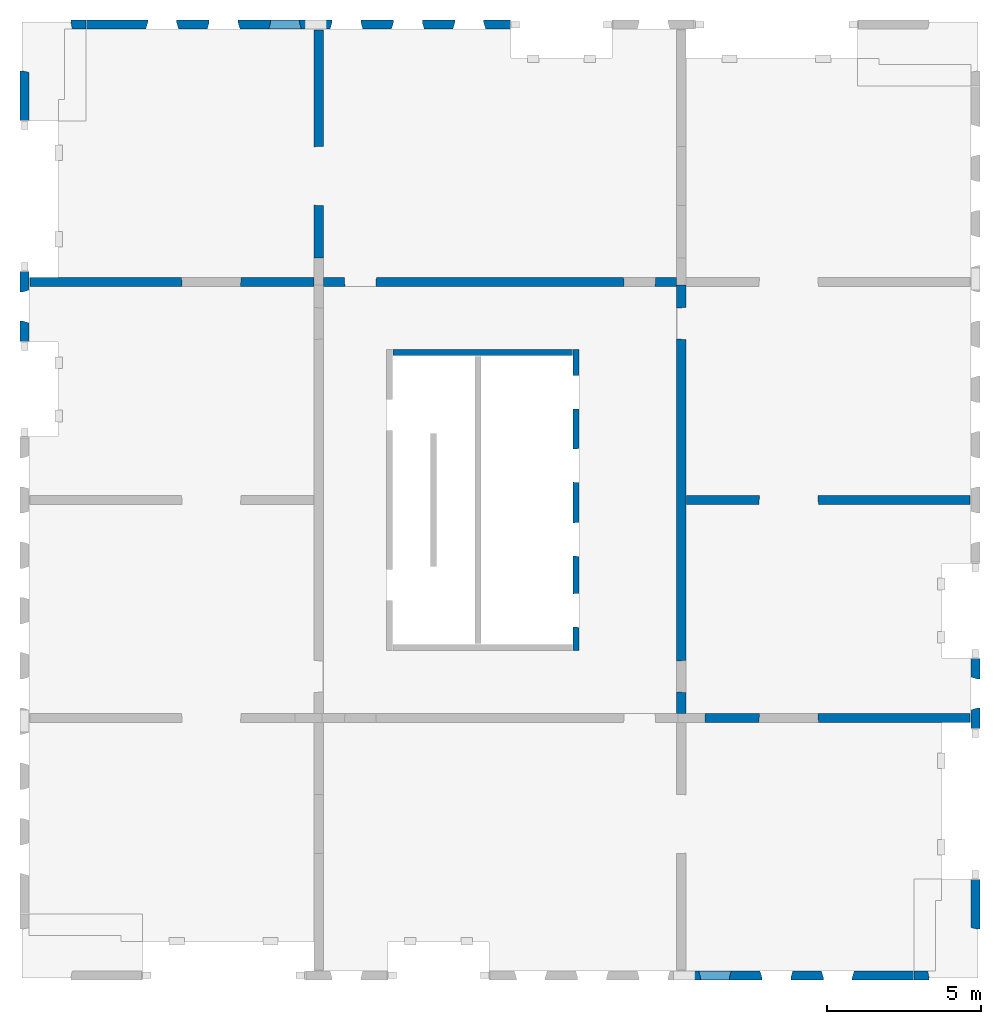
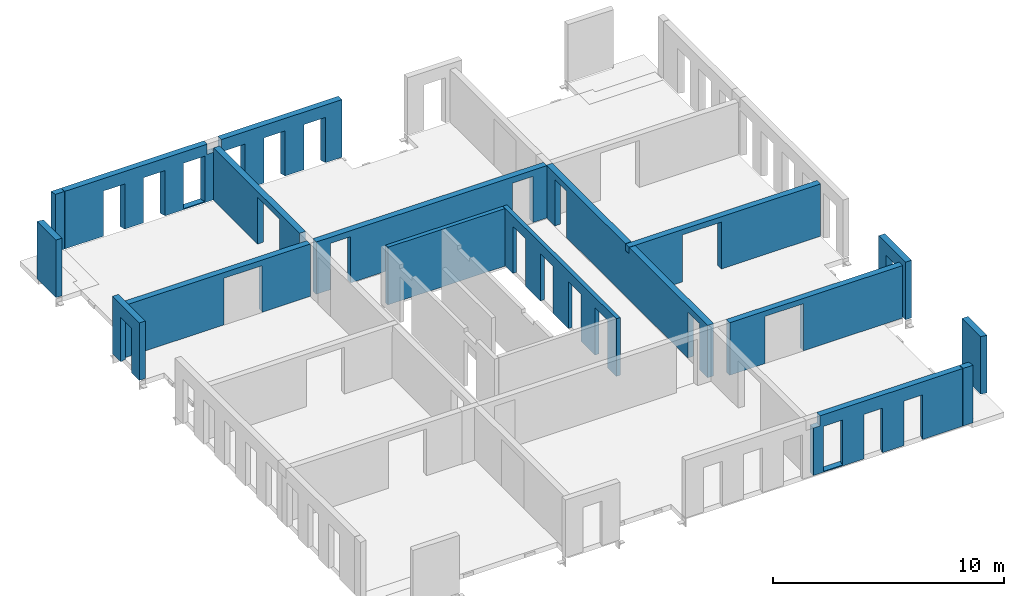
# One storey, part 3 of 5: 17 walls, 32 openings.
"""IFC2X3 building model written with IfcOpenShell, lengths in millimetres."""

import ifcopenshell
import ifcopenshell.guid

model = None  # the IFC model being written
_history = None  # IfcOwnerHistory: only IFC2X3 demands one
_inside = {}  # id of a spatial element -> (the spatial element, [elements in it])
_under = {}  # id of a project, library or spatial element -> (it, [spatial elements below it])
_declared = {}  # id of a project -> (the project, [libraries it declares])
_typed = {}  # id of a type object -> (the type object, [elements of that type])
_made_of = {}  # id of a material, layer set ... -> (it, [elements and type objects made of it])


def new_model(schema):
    """Start an empty IFC model of exactly this schema.

    Asked for "IFC4X3", IfcOpenShell would pick the latest addendum, in which some entities
    have other attributes; the version numbers below select the first issue.
    IFC2X3 requires an IfcOwnerHistory on every rooted entity: one is made here for all.
    """
    global model, _history
    if schema == "IFC4X3":
        model = ifcopenshell.file(schema_version=(4, 3, 0, 0))
    else:
        model = ifcopenshell.file(schema=schema)
    _inside.clear()
    _under.clear()
    _declared.clear()
    _typed.clear()
    _made_of.clear()
    _history = None
    if model.schema == "IFC2X3":
        org = make("IfcOrganization", Name="unknown")
        user = make(
            "IfcPersonAndOrganization",
            ThePerson=make("IfcPerson", FamilyName="unknown"),
            TheOrganization=org,
        )
        app = make(
            "IfcApplication",
            ApplicationDeveloper=org,
            Version="unknown",
            ApplicationFullName="unknown",
            ApplicationIdentifier="unknown",
        )
        _history = make(
            "IfcOwnerHistory",
            OwningUser=user,
            OwningApplication=app,
            ChangeAction="ADDED",
            CreationDate=0,
        )
    return model


def make(cls, **values):
    """One entity of the class cls with the attributes given. An attribute that is None is left unset."""
    return model.create_entity(
        cls, **{name: value for name, value in values.items() if value is not None}
    )


def entity(cls, *values):
    """Any entity or typed value of the class cls, its attributes in the order of the schema. None: left unset."""
    e = model.create_entity(cls)
    for i, value in enumerate(values):
        if value is not None:
            e[i] = value
    return e


def rooted(cls, **values):
    """An entity with a GlobalId (a new one), such as an element, a storey or a relation."""
    return make(cls, GlobalId=ifcopenshell.guid.new(), OwnerHistory=_history, **values)


def si_unit(unit_type, name, prefix=None):
    """IfcSIUnit, for example si_unit("LENGTHUNIT", "METRE", prefix="MILLI")."""
    return make("IfcSIUnit", UnitType=unit_type, Prefix=prefix, Name=name)


def converted_unit(unit_type, name, factor, base, dimensions=None, offset=None):
    """IfcConversionBasedUnit, such as the inch: factor (a typed value) times the base unit."""
    return make(
        "IfcConversionBasedUnit"
        if offset is None
        else "IfcConversionBasedUnitWithOffset",
        ConversionOffset=offset,
        Dimensions=None
        if dimensions is None
        else entity("IfcDimensionalExponents", *dimensions),
        UnitType=unit_type,
        Name=name,
        ConversionFactor=make(
            "IfcMeasureWithUnit", ValueComponent=factor, UnitComponent=base
        ),
    )


def derived_unit(unit_type, elements):
    """IfcDerivedUnit: a product of units, each with its exponent."""
    return make(
        "IfcDerivedUnit",
        Elements=[
            make("IfcDerivedUnitElement", Unit=unit, Exponent=power)
            for unit, power in elements
        ],
        UnitType=unit_type,
    )


def assignment(units):
    """IfcUnitAssignment: the units of a project."""
    return None if units is None else make("IfcUnitAssignment", Units=units)


def point(xyz):
    """IfcCartesianPoint."""
    return None if xyz is None else make("IfcCartesianPoint", Coordinates=xyz)


def direction(xyz):
    """IfcDirection."""
    return None if xyz is None else make("IfcDirection", DirectionRatios=xyz)


def frame(location, z_axis=None, x_axis=None):
    """IfcAxis2Placement3D, a coordinate frame: its origin and axes. An axis left out is left unset."""
    return make(
        "IfcAxis2Placement3D",
        Location=point(location),
        Axis=direction(z_axis),
        RefDirection=direction(x_axis),
    )


def frame_2d(location, x_axis=None):
    """IfcAxis2Placement2D, a coordinate frame in the plane: its origin and x axis."""
    return make(
        "IfcAxis2Placement2D", Location=point(location), RefDirection=direction(x_axis)
    )


def origin():
    """The frame at (0, 0, 0) with its axes left unset."""
    return frame((0.0, 0.0, 0.0))


def origin_2d_with_axis():
    """The frame at (0, 0) in the plane with the x axis (1, 0) written out."""
    return frame_2d((0.0, 0.0), x_axis=(1.0, 0.0))


def place(relative_to, where):
    """IfcLocalPlacement: puts the frame where relative to a parent placement (None: the world)."""
    return make(
        "IfcLocalPlacement", PlacementRelTo=relative_to, RelativePlacement=where
    )


def context(
    kind, dimensions, precision=None, world=None, true_north=None, identifier=None
):
    """IfcGeometricRepresentationContext, for example the 3D "Model" context."""
    return make(
        "IfcGeometricRepresentationContext",
        ContextIdentifier=identifier,
        ContextType=kind,
        CoordinateSpaceDimension=dimensions,
        Precision=precision,
        WorldCoordinateSystem=world,
        TrueNorth=true_north,
    )


def subcontext(parent, identifier, kind, view, scale=None):
    """IfcGeometricRepresentationSubContext, for example "Body" below "Model"."""
    return make(
        "IfcGeometricRepresentationSubContext",
        ContextIdentifier=identifier,
        ContextType=kind,
        ParentContext=parent,
        TargetScale=scale,
        TargetView=view,
    )


def project(units=None, contexts=None):
    """IfcProject with its units and contexts."""
    return rooted(
        "IfcProject",
        Name="project",
        RepresentationContexts=contexts,
        UnitsInContext=assignment(units),
    )


def spatial(cls, under=None, at=None, **own):
    """A site, building, storey or space (cls), placed at a placement, below another one or the project."""
    s = rooted(cls, ObjectPlacement=at, **own)
    if under is not None:
        _under.setdefault(under.id(), (under, []))[1].append(s)
    return s


def profile(cls, at=None, kind="AREA", **sizes):
    """A parametric profile (cls). Its sizes go by their IFC names, for example OverallWidth=200.0."""
    return make(cls, ProfileType=kind, Position=at, **sizes)


def rectangle(**sizes):
    """IfcRectangleProfileDef."""
    return profile("IfcRectangleProfileDef", **sizes)


def extrude(swept, where, along, depth):
    """IfcExtrudedAreaSolid: the profile swept, set in the frame where, extruded along a direction by depth."""
    return make(
        "IfcExtrudedAreaSolid",
        SweptArea=swept,
        Position=where,
        ExtrudedDirection=direction(along),
        Depth=depth,
    )


def faces_of(points, faces, orient=None, outer=None):
    """IfcFace entities. A face is a list of loops; a loop is a list of indices into points, from 0.

    orient and outer hold one flag for each loop. By default every Orientation is true, the
    first loop of a face is its IfcFaceOuterBound and the others are IfcFaceBound.
    """
    made = []
    for i, loops in enumerate(faces):
        bounds = []
        for j, loop in enumerate(loops):
            is_outer = j == 0 if outer is None else outer[i][j]
            bounds.append(
                make(
                    "IfcFaceOuterBound" if is_outer else "IfcFaceBound",
                    Bound=make("IfcPolyLoop", Polygon=[points[k] for k in loop]),
                    Orientation=True if orient is None else orient[i][j],
                )
            )
        made.append(make("IfcFace", Bounds=bounds))
    return made


def faceted_brep(points, faces, orient=None, outer=None, voids=None):
    """IfcFacetedBrep: a solid bounded by flat faces; with voids (closed shells), ...WithVoids."""
    shared = [point(p) for p in points]
    hull = make("IfcClosedShell", CfsFaces=faces_of(shared, faces, orient, outer))
    if voids is None:
        return make("IfcFacetedBrep", Outer=hull)
    return make(
        "IfcFacetedBrepWithVoids",
        Outer=hull,
        Voids=[
            make(cls, CfsFaces=faces_of(shared, fs, o, b)) for cls, fs, o, b in voids
        ],
    )


def shape(context_of_items, identifier, shape_type, items):
    """IfcShapeRepresentation: the items that make up one representation, for example the "Body"."""
    return make(
        "IfcShapeRepresentation",
        ContextOfItems=context_of_items,
        RepresentationIdentifier=identifier,
        RepresentationType=shape_type,
        Items=items,
    )


def material(Name=None, Category=None):
    """IfcMaterial."""
    return make("IfcMaterial", Name=Name, Category=Category)


def layer(
    of_material, thickness, ventilated=None, Name=None, Category=None, Priority=None
):
    """IfcMaterialLayer: one layer of a wall or slab, of a material (None: an air gap)."""
    return make(
        "IfcMaterialLayer",
        Material=of_material,
        LayerThickness=thickness,
        IsVentilated=ventilated,
        Name=Name,
        Category=Category,
        Priority=Priority,
    )


def layer_set(layers, Name=None):
    """IfcMaterialLayerSet."""
    return make("IfcMaterialLayerSet", MaterialLayers=layers, LayerSetName=Name)


def layer_usage(for_layer_set, set_direction, sense, offset, extent=None):
    """IfcMaterialLayerSetUsage: how a layer set lies in its element."""
    return make(
        "IfcMaterialLayerSetUsage",
        ForLayerSet=for_layer_set,
        LayerSetDirection=set_direction,
        DirectionSense=sense,
        OffsetFromReferenceLine=offset,
        ReferenceExtent=extent,
    )


def made_of(thing, what):
    """Note that an element or type object is made of a material, layer set ...; save() writes the relation."""
    if what is not None:
        _made_of.setdefault(what.id(), (what, []))[1].append(thing)
    return thing


def type_object(cls, material=None, **own):
    """A type object (cls), such as IfcWallType, which elements share."""
    return made_of(rooted(cls, **own), material)


def element(
    cls,
    number,
    at=None,
    inside=None,
    cuts=None,
    type_object=None,
    material=None,
    context=None,
    identifier="Body",
    shape_type=None,
    held_by="IfcProductDefinitionShape",
    body=None,
    shapes=None,
    **own,
):
    """One element of the class cls, such as IfcWall. Its Tag is "e" and its number.

    at: its placement. inside: the storey or other place that contains it. cuts: it is an
    opening in that element (IfcRelVoidsElement). A single representation is given by context,
    identifier, shape_type and body (its items); several are given by shapes. held_by: the class
    of the entity that holds the representations. save() writes the other relations.
    """
    e = rooted(cls, Tag="e%d" % number, ObjectPlacement=at, **own)
    if body is not None:
        shapes = [shape(context, identifier, shape_type, body)]
    if shapes is not None:
        e.Representation = make(held_by, Representations=shapes)
    if inside is not None:
        _inside.setdefault(inside.id(), (inside, []))[1].append(e)
    if cuts is not None:
        rooted(
            "IfcRelVoidsElement", RelatingBuildingElement=cuts, RelatedOpeningElement=e
        )
    if type_object is not None:
        _typed.setdefault(type_object.id(), (type_object, []))[1].append(e)
    return made_of(e, material)


def aggregate(whole, parts):
    """IfcRelAggregates: a whole, such as a stair, and the parts it consists of."""
    return rooted("IfcRelAggregates", RelatingObject=whole, RelatedObjects=parts)


def save(model, path):
    """Write the relations noted so far, then the file.

    IfcRelAggregates (storeys below a building ...), IfcRelContainedInSpatialStructure (elements
    in a storey), IfcRelDefinesByType, IfcRelAssociatesMaterial and IfcRelDeclares: one each for
    every whole, place, type object, material and project.
    """
    for whole, parts in _under.values():
        aggregate(whole, parts)
    for where, things in _inside.values():
        rooted(
            "IfcRelContainedInSpatialStructure",
            RelatedElements=things,
            RelatingStructure=where,
        )
    for kind, things in _typed.values():
        rooted("IfcRelDefinesByType", RelatedObjects=things, RelatingType=kind)
    for what, things in _made_of.values():
        rooted("IfcRelAssociatesMaterial", RelatedObjects=things, RelatingMaterial=what)
    for by, libraries in _declared.values():
        rooted("IfcRelDeclares", RelatingContext=by, RelatedDefinitions=libraries)
    model.write(path)


model = new_model("IFC2X3")

# Units and contexts
model_context = context("Model", 3, precision=0.01, world=origin(), true_north=direction((6.12303176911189e-17, 1.0)))
body_context = subcontext(model_context, "Body", "Model", "MODEL_VIEW")
ifc_project = project(units=[si_unit("LENGTHUNIT", "METRE", prefix="MILLI"), si_unit("AREAUNIT", "SQUARE_METRE"), si_unit("VOLUMEUNIT", "CUBIC_METRE"), converted_unit("PLANEANGLEUNIT", "DEGREE", entity("IfcRatioMeasure", 0.0174532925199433), si_unit("PLANEANGLEUNIT", "RADIAN"), dimensions=[0, 0, 0, 0, 0, 0, 0]), si_unit("MASSUNIT", "GRAM", prefix="KILO"), derived_unit("MASSDENSITYUNIT", [(si_unit("MASSUNIT", "GRAM", prefix="KILO"), 1), (si_unit("LENGTHUNIT", "METRE"), -3)]), si_unit("TIMEUNIT", "SECOND"), si_unit("FREQUENCYUNIT", "HERTZ"), si_unit("THERMODYNAMICTEMPERATUREUNIT", "DEGREE_CELSIUS"), derived_unit("THERMALTRANSMITTANCEUNIT", [(si_unit("MASSUNIT", "GRAM", prefix="KILO"), 1), (si_unit("THERMODYNAMICTEMPERATUREUNIT", "KELVIN"), -1), (si_unit("TIMEUNIT", "SECOND"), -3)]), derived_unit("VOLUMETRICFLOWRATEUNIT", [(si_unit("LENGTHUNIT", "METRE"), 3), (si_unit("TIMEUNIT", "SECOND"), -1)]), si_unit("ELECTRICCURRENTUNIT", "AMPERE"), si_unit("ELECTRICVOLTAGEUNIT", "VOLT"), si_unit("POWERUNIT", "WATT"), si_unit("FORCEUNIT", "NEWTON", prefix="KILO"), si_unit("ILLUMINANCEUNIT", "LUX"), si_unit("LUMINOUSFLUXUNIT", "LUMEN"), si_unit("LUMINOUSINTENSITYUNIT", "CANDELA"), derived_unit("USERDEFINED", [(si_unit("MASSUNIT", "GRAM", prefix="KILO"), -1), (si_unit("LENGTHUNIT", "METRE"), -2), (si_unit("TIMEUNIT", "SECOND"), 3), (si_unit("LUMINOUSFLUXUNIT", "LUMEN"), 1)]), derived_unit("LINEARVELOCITYUNIT", [(si_unit("LENGTHUNIT", "METRE"), 1), (si_unit("TIMEUNIT", "SECOND"), -1)]), si_unit("PRESSUREUNIT", "PASCAL"), derived_unit("USERDEFINED", [(si_unit("LENGTHUNIT", "METRE"), -2), (si_unit("MASSUNIT", "GRAM", prefix="KILO"), 1), (si_unit("TIMEUNIT", "SECOND"), -2)])], contexts=[model_context])

# Site, building, storey
site_placement = place(None, origin())
site = spatial("IfcSite", under=ifc_project, at=site_placement, Name="Default", CompositionType="ELEMENT")
building_placement = place(site_placement, origin())
building = spatial("IfcBuilding", under=site, at=building_placement, Name="niet gebruiken", CompositionType="ELEMENT")
storey_placement = place(building_placement, frame((0.0, 0.0, 155700.0)))
storey = spatial("IfcBuildingStorey", under=building, at=storey_placement, Name="50 vijftigste verdieping", CompositionType="ELEMENT", Elevation=155700.0)

# Wall, openings
ifc_material = material(Name="NLRS_f2_beton prefab")
ifc_layer_1 = layer(ifc_material, 200.0)
ifc_layer_set_1 = layer_set([ifc_layer_1], Name="Basic Wall:NLRS_22.21_WA_beton prefab d=200_gen")
ifc_layer_usage_1 = layer_usage(ifc_layer_set_1, "AXIS2", "NEGATIVE", 100.0)
wall_type_1 = type_object("IfcWallType", Name="Basic Wall:NLRS_22.21_WA_beton prefab d=200_gen", PredefinedType="STANDARD", material=ifc_layer_set_1)
wall_1_placement = place(storey_placement, frame((144230.0, 22400.0, -50.0), z_axis=(0.0, 0.0, 1.0), x_axis=(0.0, -1.0, 0.0)))
wall_1 = element("IfcWallStandardCase", 1, at=wall_1_placement, inside=storey, type_object=wall_type_1, material=ifc_layer_usage_1, Name="Basic Wall:NLRS_22.21_WA_beton prefab d=200_gen", ObjectType="Basic Wall:NLRS_22.21_WA_beton prefab d=200_gen", context=body_context, shape_type="SweptSolid", body=[
    extrude(rectangle(XDim=9800.0, YDim=199.999999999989, at=frame_2d((4900.0, -3.69482222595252e-13), x_axis=(-1.0, 0.0))), origin(), (0.0, 0.0, 1.0), 3040.0),
])
opening_1_placement = place(wall_1_placement, frame((9047.0, -100.0, 0.0)))
element("IfcOpeningElement", 2, at=opening_1_placement, cuts=wall_1, Name="Basic Wall:NLRS_22.21_WA_beton prefab d=200_gen", ObjectType="Opening", context=body_context, shape_type="Brep", body=[
    faceted_brep([(-1104.0, 200.0, 2502.0), (-1104.0, 200.0, 0.0), (-1092.0, 0.0, 0.0), (-1092.0, 0.0, 2490.0), (0.0, 200.0, 0.0), (-12.0, 0.0, 0.0), (-12.0, 0.0, 2490.0), (0.0, 200.0, 2502.0)], [[[0, 1, 2, 3]], [[1, 4, 5, 2]], [[6, 3, 2, 5]], [[7, 4, 1, 0]], [[7, 0, 3, 6]], [[4, 7, 6, 5]]]),
])
opening_2_placement = place(wall_1_placement, frame((6737.0, -100.0, 0.0)))
element("IfcOpeningElement", 3, at=opening_2_placement, cuts=wall_1, Name="Basic Wall:NLRS_22.21_WA_beton prefab d=200_gen", ObjectType="Opening", context=body_context, shape_type="Brep", body=[
    faceted_brep([(-1104.0, 200.0, 2502.0), (-1104.0, 200.0, 0.0), (-1092.0, 0.0, 0.0), (-1092.0, 0.0, 2490.0), (0.0, 200.0, 0.0), (-12.0, 0.0, 0.0), (-12.0, 0.0, 2490.0), (0.0, 200.0, 2502.0)], [[[0, 1, 2, 3]], [[1, 4, 5, 2]], [[6, 3, 2, 5]], [[7, 4, 1, 0]], [[7, 0, 3, 6]], [[4, 7, 6, 5]]]),
])
opening_3_placement = place(wall_1_placement, frame((4332.0, -100.0, 0.0)))
element("IfcOpeningElement", 4, at=opening_3_placement, cuts=wall_1, Name="Basic Wall:NLRS_22.21_WA_beton prefab d=200_gen", ObjectType="Opening", context=body_context, shape_type="Brep", body=[
    faceted_brep([(-1104.0, 200.0, 2502.0), (-1104.0, 200.0, 0.0), (-1092.0, 0.0, 0.0), (-1092.0, 0.0, 2490.0), (0.0, 200.0, 0.0), (-12.0, 0.0, 0.0), (-12.0, 0.0, 2490.0), (0.0, 200.0, 2502.0)], [[[0, 1, 2, 3]], [[1, 4, 5, 2]], [[6, 3, 2, 5]], [[7, 4, 1, 0]], [[7, 0, 3, 6]], [[4, 7, 6, 5]]]),
])
opening_4_placement = place(wall_1_placement, frame((1942.0, -100.0, 0.0)))
element("IfcOpeningElement", 5, at=opening_4_placement, cuts=wall_1, Name="Basic Wall:NLRS_22.21_WA_beton prefab d=200_gen", ObjectType="Opening", context=body_context, shape_type="Brep", body=[
    faceted_brep([(-1104.0, 200.0, 2502.0), (-1104.0, 200.0, 0.0), (-1092.0, 0.0, 0.0), (-1092.0, 0.0, 2490.0), (0.0, 200.0, 0.0), (-12.0, 0.0, 0.0), (-12.0, 0.0, 2490.0), (0.0, 200.0, 2502.0)], [[[0, 1, 2, 3]], [[1, 4, 5, 2]], [[6, 3, 2, 5]], [[7, 4, 1, 0]], [[7, 0, 3, 6]], [[4, 7, 6, 5]]]),
])

# Wall
ifc_layer_usage_2 = layer_usage(ifc_layer_set_1, "AXIS2", "NEGATIVE", 100.0)
wall_2_placement = place(storey_placement, frame((138270.0, 22300.0, -50.0)))
element("IfcWallStandardCase", 6, at=wall_2_placement, inside=storey, type_object=wall_type_1, material=ifc_layer_usage_2, Name="Basic Wall:NLRS_22.21_WA_beton prefab d=200_gen", ObjectType="Basic Wall:NLRS_22.21_WA_beton prefab d=200_gen", context=body_context, shape_type="SweptSolid", body=[
    extrude(rectangle(XDim=5839.99999999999, YDim=199.999999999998, at=frame_2d((2919.99999999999, -7.60280727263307e-13), x_axis=(-1.0, 0.0))), origin(), (0.0, 0.0, 1.0), 3040.0),
])

# Wall, openings
ifc_layer_2 = layer(ifc_material, 300.0)
ifc_layer_set_2 = layer_set([ifc_layer_2], Name="Basic Wall:NLRS_22.21_WA_beton prefab d=300_gen")
ifc_layer_usage_3 = layer_usage(ifc_layer_set_2, "AXIS2", "NEGATIVE", 150.0)
wall_type_2 = type_object("IfcWallType", Name="Basic Wall:NLRS_22.21_WA_beton prefab d=300_gen", PredefinedType="STANDARD", material=ifc_layer_set_2)
wall_3_placement = place(storey_placement, frame((157060.0, 17500.0, -60.0), z_axis=(0.0, 0.0, 1.0), x_axis=(-1.0, 0.0, 0.0)))
wall_3 = element("IfcWallStandardCase", 7, at=wall_3_placement, inside=storey, type_object=wall_type_2, material=ifc_layer_usage_3, Name="Basic Wall:NLRS_22.21_WA_beton prefab d=300_gen", ObjectType="Basic Wall:NLRS_22.21_WA_beton prefab d=300_gen", context=body_context, shape_type="SweptSolid", body=[
    extrude(rectangle(XDim=9559.9999999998, YDim=300.000000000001, at=frame_2d((4779.9999999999, -1.84741111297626e-13), x_axis=(-1.0, 0.0))), origin(), (0.0, 0.0, 1.0), 2760.0),
])
opening_5_placement = place(wall_3_placement, frame((6878.0, 150.0, -10.0)))
element("IfcOpeningElement", 8, at=opening_5_placement, cuts=wall_3, Name="Basic Wall:NLRS_22.21_WA_beton prefab d=300_gen", ObjectType="Opening", context=body_context, shape_type="Brep", body=[
    faceted_brep([(-18.0, -300.0, 2470.0), (-1918.0, -300.0, 2470.0), (-1918.0, -300.0, 0.0), (-18.0, -300.0, 0.0), (0.0, 0.0, 2488.0), (0.0, 0.0, 0.0), (-1936.0, 0.0, 0.0), (-1936.0, 0.0, 2488.0)], [[[0, 1, 2, 3]], [[4, 5, 6, 7]], [[4, 7, 1, 0]], [[7, 6, 2, 1]], [[6, 5, 3, 2]], [[5, 4, 0, 3]]]),
])
opening_6_placement = place(wall_3_placement, origin())
element("IfcOpeningElement", 9, at=opening_6_placement, cuts=wall_3, Name="Basic Wall:NLRS_22.21_WA_beton prefab d=300_gen", ObjectType="Opening", context=body_context, shape_type="SweptSolid", body=[
    extrude(rectangle(XDim=2429.99999999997, YDim=319.999999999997, at=frame_2d((0.0, 0.0), x_axis=(0.0, 1.0))), frame((9400.0, 150.0, 1215.0), z_axis=(0.0, -1.0, 0.0), x_axis=(1.0, 0.0, 0.0)), (0.0, 0.0, 1.0), 300.0),
])

# Wall, opening
ifc_layer_usage_4 = layer_usage(ifc_layer_set_2, "AXIS2", "NEGATIVE", 150.0)
wall_4_placement = place(storey_placement, frame((135700.0, 24600.0, -60.0), z_axis=(0.0, 0.0, 1.0), x_axis=(-1.0, 0.0, 0.0)))
wall_4 = element("IfcWallStandardCase", 10, at=wall_4_placement, inside=storey, type_object=wall_type_2, material=ifc_layer_usage_4, Name="Basic Wall:NLRS_22.21_WA_beton prefab d=300_gen", ObjectType="Basic Wall:NLRS_22.21_WA_beton prefab d=300_gen", context=body_context, shape_type="SweptSolid", body=[
    extrude(rectangle(XDim=9259.99999999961, YDim=300.000000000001, at=frame_2d((4629.99999999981, -2.41584530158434e-13), x_axis=(-1.0, 0.0))), origin(), (0.0, 0.0, 1.0), 2760.0),
])
opening_7_placement = place(wall_4_placement, frame((4318.0, 150.0, -10.0)))
element("IfcOpeningElement", 11, at=opening_7_placement, cuts=wall_4, Name="Basic Wall:NLRS_22.21_WA_beton prefab d=300_gen", ObjectType="Opening", context=body_context, shape_type="Brep", body=[
    faceted_brep([(-1918.0, 0.0, 2470.0), (-18.0, 0.0, 2470.0), (-18.0, 0.0, 0.0), (-1918.0, 0.0, 0.0), (-1936.0, -300.0, 2488.0), (-1936.0, -300.0, 0.0), (0.0, -300.0, 0.0), (0.0, -300.0, 2488.0)], [[[0, 1, 2, 3]], [[4, 5, 6, 7]], [[4, 7, 1, 0]], [[7, 6, 2, 1]], [[6, 5, 3, 2]], [[5, 4, 0, 3]]]),
])

ifc_layer_usage_5 = layer_usage(ifc_layer_set_2, "AXIS2", "NEGATIVE", 150.0)
wall_5_placement = place(storey_placement, frame((148430.0, 10400.0, -70.0)))
wall_5 = element("IfcWallStandardCase", 12, at=wall_5_placement, inside=storey, type_object=wall_type_2, material=ifc_layer_usage_5, Name="Basic Wall:NLRS_22.21_WA_beton prefab d=300_gen", ObjectType="Basic Wall:NLRS_22.21_WA_beton prefab d=300_gen", context=body_context, shape_type="SweptSolid", body=[
    extrude(rectangle(XDim=8630.00000000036, YDim=300.000000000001, at=frame_2d((4315.00000000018, 0.0), x_axis=(-1.0, 0.0))), origin(), (0.0, 0.0, 1.0), 2769.99999999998),
])
opening_8_placement = place(wall_5_placement, frame((1752.0, -150.0, 0.0)))
element("IfcOpeningElement", 13, at=opening_8_placement, cuts=wall_5, Name="Basic Wall:NLRS_22.21_WA_beton prefab d=300_gen", ObjectType="Opening", context=body_context, shape_type="Brep", body=[
    faceted_brep([(18.0, 300.0, 2470.0), (1918.0, 300.0, 2470.0), (1918.0, 300.0, 0.0), (18.0, 300.0, 0.0), (0.0, 0.0, 2488.0), (0.0, 0.0, 0.0), (1936.0, 0.0, 0.0), (1936.0, 0.0, 2488.0)], [[[0, 1, 2, 3]], [[4, 5, 6, 7]], [[4, 7, 1, 0]], [[7, 6, 2, 1]], [[6, 5, 3, 2]], [[5, 4, 0, 3]]]),
])

ifc_layer_usage_6 = layer_usage(ifc_layer_set_2, "AXIS2", "NEGATIVE", 150.0)
wall_6_placement = place(storey_placement, frame((135850.0, 25380.0, -70.0), z_axis=(0.0, 0.0, 1.0), x_axis=(0.0, 1.0, 0.0)))
wall_6 = element("IfcWallStandardCase", 14, at=wall_6_placement, inside=storey, type_object=wall_type_2, material=ifc_layer_usage_6, Name="Basic Wall:NLRS_22.21_WA_beton prefab d=300_gen", ObjectType="Basic Wall:NLRS_22.21_WA_beton prefab d=300_gen", context=body_context, shape_type="SweptSolid", body=[
    extrude(rectangle(XDim=7430.00000000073, YDim=300.000000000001, at=frame_2d((3715.00000000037, -5.62749846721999e-12), x_axis=(-1.0, 0.0))), origin(), (0.0, 0.0, 1.0), 2769.99999999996),
])
opening_9_placement = place(wall_6_placement, frame((1702.0, 150.0, 0.0)))
element("IfcOpeningElement", 15, at=opening_9_placement, cuts=wall_6, Name="Basic Wall:NLRS_22.21_WA_beton prefab d=300_gen", ObjectType="Opening", context=body_context, shape_type="Brep", body=[
    faceted_brep([(1918.0, 0.0, 2470.0), (1918.0, 0.0, 0.0), (18.0, 0.0, 0.0), (18.0, 0.0, 2470.0), (1936.0, -300.0, 2488.0), (0.0, -300.0, 2488.0), (0.0, -300.0, 0.0), (1936.0, -300.0, 0.0)], [[[0, 1, 2, 3]], [[4, 5, 6, 7]], [[4, 0, 3, 5]], [[5, 3, 2, 6]], [[6, 2, 1, 7]], [[7, 1, 0, 4]]]),
])

# Wall, openings
ifc_layer_usage_7 = layer_usage(ifc_layer_set_2, "AXIS2", "NEGATIVE", 150.0)
wall_7_placement = place(storey_placement, frame((147650.0, 24500.0, -60.0), z_axis=(0.0, 0.0, 1.0), x_axis=(0.0, -1.0, 0.0)))
wall_7 = element("IfcWallStandardCase", 16, at=wall_7_placement, inside=storey, type_object=wall_type_2, material=ifc_layer_usage_7, Name="Basic Wall:NLRS_22.21_WA_beton prefab d=300_gen", ObjectType="Basic Wall:NLRS_22.21_WA_beton prefab d=300_gen", context=body_context, shape_type="SweptSolid", body=[
    extrude(rectangle(XDim=13949.999999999, YDim=300.000000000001, at=frame_2d((6974.99999999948, 4.2632564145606e-14), x_axis=(-1.0, 0.0))), origin(), (0.0, 0.0, 1.0), 2760.00000000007),
])
opening_10_placement = place(wall_7_placement, frame((13268.0, -150.0, -10.0)))
element("IfcOpeningElement", 17, at=opening_10_placement, cuts=wall_7, Name="Basic Wall:NLRS_22.21_WA_beton prefab d=300_gen", ObjectType="Opening", context=body_context, shape_type="Brep", body=[
    faceted_brep([(-1042.0, 300.0, 2466.0), (-1042.0, 300.0, 0.0), (-1024.0, 0.0, 0.0), (-1024.0, 0.0, 2448.0), (0.0, 300.0, 0.0), (-18.0, 0.0, 0.0), (-18.0, 0.0, 2448.0), (0.0, 300.0, 2466.0)], [[[0, 1, 2, 3]], [[1, 4, 5, 2]], [[6, 3, 2, 5]], [[7, 4, 1, 0]], [[7, 0, 3, 6]], [[4, 7, 6, 5]]]),
])
opening_11_placement = place(wall_7_placement, frame((1774.0, -150.0, -10.0)))
element("IfcOpeningElement", 18, at=opening_11_placement, cuts=wall_7, Name="Basic Wall:NLRS_22.21_WA_beton prefab d=300_gen", ObjectType="Opening", context=body_context, shape_type="Brep", body=[
    faceted_brep([(-1042.0, 300.0, 2466.0), (-1042.0, 300.0, 0.0), (-1024.0, 0.0, 0.0), (-1024.0, 0.0, 2448.0), (0.0, 300.0, 0.0), (-18.0, 0.0, 0.0), (-18.0, 0.0, 2448.0), (0.0, 300.0, 2466.0)], [[[0, 1, 2, 3]], [[1, 4, 5, 2]], [[6, 3, 2, 5]], [[7, 4, 1, 0]], [[7, 0, 3, 6]], [[4, 7, 6, 5]]]),
])
opening_12_placement = place(wall_7_placement, origin())
element("IfcOpeningElement", 19, at=opening_12_placement, cuts=wall_7, Name="Basic Wall:NLRS_22.21_WA_beton prefab d=300_gen", ObjectType="Opening", context=body_context, shape_type="SweptSolid", body=[
    extrude(rectangle(XDim=350.000000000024, YDim=340.000000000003, at=frame_2d((-1.08002495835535e-12, 0.0), x_axis=(0.0, 1.0))), frame((7000.0, 150.0, 2585.0), z_axis=(0.0, -1.0, 0.0), x_axis=(-1.0, 0.0, 0.0)), (0.0, 0.0, 1.0), 300.0),
])

ifc_layer_usage_8 = layer_usage(ifc_layer_set_2, "AXIS2", "NEGATIVE", 150.0)
wall_8_placement = place(storey_placement, frame((136000.0, 24600.0, -60.0)))
wall_8 = element("IfcWallStandardCase", 20, at=wall_8_placement, inside=storey, type_object=wall_type_2, material=ifc_layer_usage_8, Name="Basic Wall:NLRS_22.21_WA_beton prefab d=300_gen", ObjectType="Basic Wall:NLRS_22.21_WA_beton prefab d=300_gen", context=body_context, shape_type="SweptSolid", body=[
    extrude(rectangle(XDim=11499.9999999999, YDim=300.000000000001, at=frame_2d((5749.99999999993, -1.08002495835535e-12), x_axis=(-1.0, 0.0))), origin(), (0.0, 0.0, 1.0), 2760.0),
])
opening_13_placement = place(wall_8_placement, frame((682.0, -150.0, -10.0)))
element("IfcOpeningElement", 21, at=opening_13_placement, cuts=wall_8, Name="Basic Wall:NLRS_22.21_WA_beton prefab d=300_gen", ObjectType="Opening", context=body_context, shape_type="Brep", body=[
    faceted_brep([(0.0, 300.0, 2466.0), (0.0, 300.0, 0.0), (18.0, 0.0, 0.0), (18.0, 0.0, 2448.0), (1042.0, 300.0, 0.0), (1024.0, 0.0, 0.0), (1024.0, 0.0, 2448.0), (1042.0, 300.0, 2466.0)], [[[0, 1, 2, 3]], [[1, 4, 5, 2]], [[6, 3, 2, 5]], [[7, 4, 1, 0]], [[7, 0, 3, 6]], [[4, 7, 6, 5]]]),
])
opening_14_placement = place(wall_8_placement, frame((9776.0, -150.0, -10.0)))
element("IfcOpeningElement", 22, at=opening_14_placement, cuts=wall_8, Name="Basic Wall:NLRS_22.21_WA_beton prefab d=300_gen", ObjectType="Opening", context=body_context, shape_type="Brep", body=[
    faceted_brep([(0.0, 300.0, 2466.0), (0.0, 300.0, 0.0), (18.0, 0.0, 0.0), (18.0, 0.0, 2448.0), (1042.0, 300.0, 0.0), (1024.0, 0.0, 0.0), (1024.0, 0.0, 2448.0), (1042.0, 300.0, 2466.0)], [[[0, 1, 2, 3]], [[1, 4, 5, 2]], [[6, 3, 2, 5]], [[7, 4, 1, 0]], [[7, 0, 3, 6]], [[4, 7, 6, 5]]]),
])

# Wall, opening
ifc_layer_3 = layer(ifc_material, 300.0)
ifc_layer_set_3 = layer_set([ifc_layer_3], Name="Basic Wall:NLRS_21.21_WA_beton prefab d=300/320_gen")
ifc_layer_usage_9 = layer_usage(ifc_layer_set_3, "AXIS2", "NEGATIVE", 150.0)
wall_type_3 = type_object("IfcWallType", Name="Basic Wall:NLRS_21.21_WA_beton prefab d=300/320_gen", PredefinedType="STANDARD", material=ifc_layer_set_3)
wall_9_placement = place(storey_placement, frame((157230.0, 12360.0, -50.0), z_axis=(0.0, 0.0, 1.0), x_axis=(0.0, -1.0, 0.0)))
wall_9 = element("IfcWallStandardCase", 23, at=wall_9_placement, inside=storey, type_object=wall_type_3, material=ifc_layer_usage_9, Name="Basic Wall:NLRS_21.21_WA_beton prefab d=300/320_gen", ObjectType="Basic Wall:NLRS_21.21_WA_beton prefab d=300/320_gen", context=body_context, shape_type="SweptSolid", body=[
    extrude(rectangle(XDim=2320.00000000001, YDim=300.000000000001, at=frame_2d((1160.0, -8.38440428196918e-12), x_axis=(-1.0, 0.0))), origin(), (0.0, 0.0, 1.0), 3040.0),
])
opening_15_placement = place(wall_9_placement, frame((1695.0, -150.0, -20.0)))
element("IfcOpeningElement", 24, at=opening_15_placement, cuts=wall_9, Name="Basic Wall:NLRS_21.21_WA_beton prefab d=300/320_gen", ObjectType="Opening", context=body_context, shape_type="Brep", body=[
    faceted_brep([(-1070.0, 0.0, 2405.0), (-1070.0, 0.0, 0.0), (0.0, 0.0, 0.0), (0.0, 0.0, 2405.0), (-65.0, 219.0, 2370.0), (-1005.0, 219.0, 2370.0), (-65.0, 219.0, 0.0), (-1005.0, 219.0, 0.0), (-1005.0, 300.0, 0.0), (-65.0, 300.0, 0.0), (-1005.0, 300.0, 2370.0), (-65.0, 300.0, 2370.0)], [[[0, 1, 2, 3]], [[3, 4, 5, 0]], [[2, 6, 4, 3]], [[1, 7, 8, 9, 6, 2]], [[0, 5, 7, 1]], [[10, 11, 9, 8]], [[10, 5, 4, 11]], [[11, 4, 6, 9]], [[8, 7, 5, 10]]]),
])

ifc_layer_usage_10 = layer_usage(ifc_layer_set_3, "AXIS2", "NEGATIVE", 150.0)
wall_10_placement = place(storey_placement, frame((126270.0, 22640.0, -50.0), z_axis=(0.0, 0.0, 1.0), x_axis=(0.0, 1.0, 0.0)))
wall_10 = element("IfcWallStandardCase", 25, at=wall_10_placement, inside=storey, type_object=wall_type_3, material=ifc_layer_usage_10, Name="Basic Wall:NLRS_21.21_WA_beton prefab d=300/320_gen", ObjectType="Basic Wall:NLRS_21.21_WA_beton prefab d=300/320_gen", context=body_context, shape_type="SweptSolid", body=[
    extrude(rectangle(XDim=2320.0, YDim=300.000000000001, at=frame_2d((1160.0, -3.60955709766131e-12), x_axis=(-1.0, 0.0))), origin(), (0.0, 0.0, 1.0), 3040.0),
])
opening_16_placement = place(wall_10_placement, frame((625.0, 150.0, -20.0)))
element("IfcOpeningElement", 26, at=opening_16_placement, cuts=wall_10, Name="Basic Wall:NLRS_21.21_WA_beton prefab d=300/320_gen", ObjectType="Opening", context=body_context, shape_type="Brep", body=[
    faceted_brep([(0.0, -300.0, 2405.0), (0.0, -300.0, 0.0), (1070.0, -300.0, 0.0), (1070.0, -300.0, 2405.0), (1005.0, -81.0, 2370.0), (65.0, -81.0, 2370.0), (1005.0, -81.0, 0.0), (65.0, -81.0, 0.0), (65.0, 0.0, 0.0), (1005.0, 0.0, 0.0), (65.0, 0.0, 2370.0), (1005.0, 0.0, 2370.0)], [[[0, 1, 2, 3]], [[3, 4, 5, 0]], [[2, 6, 4, 3]], [[1, 7, 8, 9, 6, 2]], [[0, 5, 7, 1]], [[10, 11, 9, 8]], [[10, 5, 4, 11]], [[11, 4, 6, 9]], [[8, 7, 5, 10]]]),
])

# Wall, openings
ifc_layer_usage_11 = layer_usage(ifc_layer_set_3, "AXIS2", "NEGATIVE", 150.0)
wall_11_placement = place(storey_placement, frame((128290.0, 32980.0, -50.0)))
wall_11 = element("IfcWallStandardCase", 27, at=wall_11_placement, inside=storey, type_object=wall_type_3, material=ifc_layer_usage_11, Name="Basic Wall:NLRS_21.21_WA_beton prefab d=300/320_gen", ObjectType="Basic Wall:NLRS_21.21_WA_beton prefab d=300/320_gen", context=body_context, shape_type="SweptSolid", body=[
    extrude(rectangle(XDim=7449.9999999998, YDim=300.000000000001, at=frame_2d((3724.9999999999, 0.0), x_axis=(-1.0, 0.0))), origin(), (0.0, 0.0, 1.0), 3040.0),
])
opening_17_placement = place(wall_11_placement, frame((3925.0, -150.0, -20.0)))
element("IfcOpeningElement", 28, at=opening_17_placement, cuts=wall_11, Name="Basic Wall:NLRS_21.21_WA_beton prefab d=300/320_gen", ObjectType="Opening", context=body_context, shape_type="Brep", body=[
    faceted_brep([(1070.0, 0.0, 2405.0), (0.0, 0.0, 2405.0), (0.0, 0.0, 0.0), (1070.0, 0.0, 0.0), (1005.0, 219.0, 2370.0), (65.0, 219.0, 2370.0), (65.0, 219.0, 0.0), (65.0, 300.0, 0.0), (1005.0, 300.0, 0.0), (1005.0, 219.0, 0.0), (1005.0, 300.0, 2370.0), (65.0, 300.0, 2370.0)], [[[0, 1, 2, 3]], [[1, 0, 4, 5]], [[2, 1, 5, 6]], [[3, 2, 6, 7, 8, 9]], [[0, 3, 9, 4]], [[10, 8, 7, 11]], [[10, 11, 5, 4]], [[11, 7, 6, 5]], [[8, 10, 4, 9]]]),
])
opening_18_placement = place(wall_11_placement, frame((1925.0, -150.0, -20.0)))
element("IfcOpeningElement", 29, at=opening_18_placement, cuts=wall_11, Name="Basic Wall:NLRS_21.21_WA_beton prefab d=300/320_gen", ObjectType="Opening", context=body_context, shape_type="Brep", body=[
    faceted_brep([(1070.0, 0.0, 2405.0), (0.0, 0.0, 2405.0), (0.0, 0.0, 0.0), (1070.0, 0.0, 0.0), (1005.0, 219.0, 2370.0), (65.0, 219.0, 2370.0), (65.0, 219.0, 0.0), (65.0, 300.0, 0.0), (1005.0, 300.0, 0.0), (1005.0, 219.0, 0.0), (1005.0, 300.0, 2370.0), (65.0, 300.0, 2370.0)], [[[0, 1, 2, 3]], [[1, 0, 4, 5]], [[2, 1, 5, 6]], [[3, 2, 6, 7, 8, 9]], [[0, 3, 9, 4]], [[10, 8, 7, 11]], [[10, 11, 5, 4]], [[11, 7, 6, 5]], [[8, 10, 4, 9]]]),
])
opening_19_placement = place(wall_11_placement, frame((5925.0, -150.0, 50.0)))
element("IfcOpeningElement", 30, at=opening_19_placement, cuts=wall_11, Name="Basic Wall:NLRS_21.21_WA_beton prefab d=300/320_gen", ObjectType="Opening", context=body_context, shape_type="Brep", body=[
    faceted_brep([(1070.0, 0.0, 2405.0), (0.0, 0.0, 2405.0), (0.0, 0.0, 0.0), (1070.0, 0.0, 0.0), (1005.0, 219.0, 2370.0), (65.0, 219.0, 2370.0), (65.0, 219.0, 0.0), (65.0, 300.0, 0.0), (1005.0, 300.0, 0.0), (1005.0, 219.0, 0.0), (1005.0, 300.0, 2370.0), (65.0, 300.0, 2370.0)], [[[0, 1, 2, 3]], [[1, 0, 4, 5]], [[2, 1, 5, 6]], [[3, 2, 6, 7, 8, 9]], [[0, 3, 9, 4]], [[10, 8, 7, 11]], [[10, 11, 5, 4]], [[11, 7, 6, 5]], [[8, 10, 4, 9]]]),
])
opening_20_placement = place(wall_11_placement, origin())
element("IfcOpeningElement", 31, at=opening_20_placement, cuts=wall_11, Name="Basic Wall:NLRS_21.21_WA_beton prefab d=300/320_gen", ObjectType="Opening", context=body_context, shape_type="SweptSolid", body=[
    extrude(rectangle(XDim=535.0, YDim=344.999999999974, at=origin_2d_with_axis()), frame((7277.49999999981, 150.0, 2772.5), z_axis=(0.0, -1.0, 0.0), x_axis=(0.0, 0.0, 1.0)), (0.0, 0.0, 1.0), 300.0),
])

ifc_layer_usage_12 = layer_usage(ifc_layer_set_3, "AXIS2", "NEGATIVE", 150.0)
wall_12_placement = place(storey_placement, frame((155210.0, 2020.0, -50.0), z_axis=(0.0, 0.0, 1.0), x_axis=(-1.0, 0.0, 0.0)))
wall_12 = element("IfcWallStandardCase", 32, at=wall_12_placement, inside=storey, type_object=wall_type_3, material=ifc_layer_usage_12, Name="Basic Wall:NLRS_21.21_WA_beton prefab d=300/320_gen", ObjectType="Basic Wall:NLRS_21.21_WA_beton prefab d=300/320_gen", context=body_context, shape_type="SweptSolid", body=[
    extrude(rectangle(XDim=7449.99999999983, YDim=300.0, at=frame_2d((3724.99999999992, 5.6843418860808e-14), x_axis=(-1.0, 0.0))), origin(), (0.0, 0.0, 1.0), 3040.0),
])
opening_21_placement = place(wall_12_placement, frame((4995.0, 150.0, -20.0)))
element("IfcOpeningElement", 33, at=opening_21_placement, cuts=wall_12, Name="Basic Wall:NLRS_21.21_WA_beton prefab d=300/320_gen", ObjectType="Opening", context=body_context, shape_type="Brep", body=[
    faceted_brep([(0.0, -300.0, 2405.0), (-1070.0, -300.0, 2405.0), (-1070.0, -300.0, 0.0), (0.0, -300.0, 0.0), (-65.0, -81.0, 2370.0), (-1005.0, -81.0, 2370.0), (-1005.0, -81.0, 0.0), (-1005.0, 0.0, 0.0), (-65.0, 0.0, 0.0), (-65.0, -81.0, 0.0), (-65.0, 0.0, 2370.0), (-1005.0, 0.0, 2370.0)], [[[0, 1, 2, 3]], [[1, 0, 4, 5]], [[2, 1, 5, 6]], [[3, 2, 6, 7, 8, 9]], [[0, 3, 9, 4]], [[10, 8, 7, 11]], [[10, 11, 5, 4]], [[11, 7, 6, 5]], [[8, 10, 4, 9]]]),
])
opening_22_placement = place(wall_12_placement, frame((2995.0, 150.0, -20.0)))
element("IfcOpeningElement", 34, at=opening_22_placement, cuts=wall_12, Name="Basic Wall:NLRS_21.21_WA_beton prefab d=300/320_gen", ObjectType="Opening", context=body_context, shape_type="Brep", body=[
    faceted_brep([(0.0, -300.0, 2405.0), (-1070.0, -300.0, 2405.0), (-1070.0, -300.0, 0.0), (0.0, -300.0, 0.0), (-65.0, -81.0, 2370.0), (-1005.0, -81.0, 2370.0), (-1005.0, -81.0, 0.0), (-1005.0, 0.0, 0.0), (-65.0, 0.0, 0.0), (-65.0, -81.0, 0.0), (-65.0, 0.0, 2370.0), (-1005.0, 0.0, 2370.0)], [[[0, 1, 2, 3]], [[1, 0, 4, 5]], [[2, 1, 5, 6]], [[3, 2, 6, 7, 8, 9]], [[0, 3, 9, 4]], [[10, 8, 7, 11]], [[10, 11, 5, 4]], [[11, 7, 6, 5]], [[8, 10, 4, 9]]]),
])
opening_23_placement = place(wall_12_placement, frame((6995.0, 150.0, 50.0)))
element("IfcOpeningElement", 35, at=opening_23_placement, cuts=wall_12, Name="Basic Wall:NLRS_21.21_WA_beton prefab d=300/320_gen", ObjectType="Opening", context=body_context, shape_type="Brep", body=[
    faceted_brep([(0.0, -300.0, 2405.0), (-1070.0, -300.0, 2405.0), (-1070.0, -300.0, 0.0), (0.0, -300.0, 0.0), (-65.0, -81.0, 2370.0), (-1005.0, -81.0, 2370.0), (-1005.0, -81.0, 0.0), (-1005.0, 0.0, 0.0), (-65.0, 0.0, 0.0), (-65.0, -81.0, 0.0), (-65.0, 0.0, 2370.0), (-1005.0, 0.0, 2370.0)], [[[0, 1, 2, 3]], [[1, 0, 4, 5]], [[2, 1, 5, 6]], [[3, 2, 6, 7, 8, 9]], [[0, 3, 9, 4]], [[10, 8, 7, 11]], [[10, 11, 5, 4]], [[11, 7, 6, 5]], [[8, 10, 4, 9]]]),
])
opening_24_placement = place(wall_12_placement, origin())
element("IfcOpeningElement", 36, at=opening_24_placement, cuts=wall_12, Name="Basic Wall:NLRS_21.21_WA_beton prefab d=300/320_gen", ObjectType="Opening", context=body_context, shape_type="SweptSolid", body=[
    extrude(rectangle(XDim=535.0, YDim=344.999999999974, at=origin_2d_with_axis()), frame((7277.49999999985, 150.0, 2772.5), z_axis=(0.0, -1.0, 0.0), x_axis=(0.0, 0.0, 1.0)), (0.0, 0.0, 1.0), 300.0),
])

# Wall, opening
ifc_layer_usage_13 = layer_usage(ifc_layer_set_3, "AXIS2", "NEGATIVE", 150.0)
wall_13_placement = place(storey_placement, frame((127780.0, 32980.0, -50.0)))
wall_13 = element("IfcWallStandardCase", 37, at=wall_13_placement, inside=storey, type_object=wall_type_3, material=ifc_layer_usage_13, Name="Basic Wall:NLRS_21.21_WA_beton prefab d=300/320_gen", ObjectType="Basic Wall:NLRS_21.21_WA_beton prefab d=300/320_gen", context=body_context, shape_type="SweptSolid", body=[
    extrude(rectangle(XDim=489.999999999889, YDim=300.000000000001, at=frame_2d((244.999999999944, -6.67910171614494e-13), x_axis=(-1.0, 0.0))), origin(), (0.0, 0.0, 1.0), 3040.0),
])
opening_25_placement = place(wall_13_placement, frame((0.0, -250.0, 0.0)))
element("IfcOpeningElement", 38, at=opening_25_placement, cuts=wall_13, Name="Basic Wall:NLRS_21.21_WA_beton prefab d=300/320_gen", ObjectType="Opening", context=body_context, shape_type="Brep", body=[
    faceted_brep([(0.0, 0.0, 3040.0), (65.0, 0.0, 3040.0), (0.0, 319.0, 3040.0), (0.0, 0.0, 0.0), (0.0, 319.0, 0.0), (65.0, 0.0, 0.0)], [[[0, 1, 2]], [[3, 4, 5]], [[1, 0, 3, 5]], [[0, 2, 4, 3]], [[2, 1, 5, 4]]]),
])

ifc_layer_usage_14 = layer_usage(ifc_layer_set_3, "AXIS2", "NEGATIVE", 150.0)
wall_14_placement = place(storey_placement, frame((126270.0, 29840.0, -50.0), z_axis=(0.0, 0.0, 1.0), x_axis=(0.0, 1.0, 0.0)))
wall_14 = element("IfcWallStandardCase", 39, at=wall_14_placement, inside=storey, type_object=wall_type_3, material=ifc_layer_usage_14, Name="Basic Wall:NLRS_21.21_WA_beton prefab d=300/320_gen", ObjectType="Basic Wall:NLRS_21.21_WA_beton prefab d=300/320_gen", context=body_context, shape_type="SweptSolid", body=[
    extrude(rectangle(XDim=1629.99999999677, YDim=300.000000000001, at=frame_2d((814.999999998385, 8.95283847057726e-13), x_axis=(-1.0, 0.0))), origin(), (0.0, 0.0, 1.0), 3040.0),
])
opening_26_placement = place(wall_14_placement, frame((1565.0, 69.0, 0.0)))
element("IfcOpeningElement", 40, at=opening_26_placement, cuts=wall_14, Name="Basic Wall:NLRS_21.21_WA_beton prefab d=300/320_gen", ObjectType="Opening", context=body_context, shape_type="Brep", body=[
    faceted_brep([(65.0, -319.0, 3040.0), (65.0, 0.0, 3040.0), (0.0, -319.0, 3040.0), (65.0, -319.0, 0.0), (0.0, -319.0, 0.0), (65.0, 0.0, 0.0)], [[[0, 1, 2]], [[3, 4, 5]], [[2, 4, 3, 0]], [[0, 3, 5, 1]], [[1, 5, 4, 2]]]),
])

ifc_layer_usage_15 = layer_usage(ifc_layer_set_3, "AXIS2", "NEGATIVE", 150.0)
wall_15_placement = place(storey_placement, frame((155720.0, 2020.0, -50.0), z_axis=(0.0, 0.0, 1.0), x_axis=(-1.0, 0.0, 0.0)))
wall_15 = element("IfcWallStandardCase", 41, at=wall_15_placement, inside=storey, type_object=wall_type_3, material=ifc_layer_usage_15, Name="Basic Wall:NLRS_21.21_WA_beton prefab d=300/320_gen", ObjectType="Basic Wall:NLRS_21.21_WA_beton prefab d=300/320_gen", context=body_context, shape_type="SweptSolid", body=[
    extrude(rectangle(XDim=489.999999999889, YDim=300.0, at=frame_2d((244.999999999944, 4.2632564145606e-14), x_axis=(-1.0, 0.0))), origin(), (0.0, 0.0, 1.0), 3040.0),
])
opening_27_placement = place(wall_15_placement, frame((65.0, 69.0, 0.0)))
element("IfcOpeningElement", 42, at=opening_27_placement, cuts=wall_15, Name="Basic Wall:NLRS_21.21_WA_beton prefab d=300/320_gen", ObjectType="Opening", context=body_context, shape_type="Brep", body=[
    faceted_brep([(-65.0, -319.0, 3040.0), (0.0, -319.0, 3040.0), (-65.0, 0.0, 3040.0), (-65.0, -319.0, 0.0), (-65.0, 0.0, 0.0), (0.0, -319.0, 0.0)], [[[0, 1, 2]], [[3, 4, 5]], [[1, 0, 3, 5]], [[0, 2, 4, 3]], [[2, 1, 5, 4]]]),
])

ifc_layer_usage_16 = layer_usage(ifc_layer_set_3, "AXIS2", "NEGATIVE", 150.0)
wall_16_placement = place(storey_placement, frame((157230.0, 5160.0, -50.0), z_axis=(0.0, 0.0, 1.0), x_axis=(0.0, -1.0, 0.0)))
wall_16 = element("IfcWallStandardCase", 43, at=wall_16_placement, inside=storey, type_object=wall_type_3, material=ifc_layer_usage_16, Name="Basic Wall:NLRS_21.21_WA_beton prefab d=300/320_gen", ObjectType="Basic Wall:NLRS_21.21_WA_beton prefab d=300/320_gen", context=body_context, shape_type="SweptSolid", body=[
    extrude(rectangle(XDim=1629.99999999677, YDim=300.000000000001, at=frame_2d((814.999999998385, 4.76063632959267e-12), x_axis=(-1.0, 0.0))), origin(), (0.0, 0.0, 1.0), 3040.0),
])
opening_28_placement = place(wall_16_placement, frame((1630.0, -250.0, 0.0)))
element("IfcOpeningElement", 44, at=opening_28_placement, cuts=wall_16, Name="Basic Wall:NLRS_21.21_WA_beton prefab d=300/320_gen", ObjectType="Opening", context=body_context, shape_type="Brep", body=[
    faceted_brep([(0.0, 0.0, 3040.0), (0.0, 319.0, 3040.0), (-65.0, 0.0, 3040.0), (0.0, 0.0, 0.0), (-65.0, 0.0, 0.0), (0.0, 319.0, 0.0)], [[[0, 1, 2]], [[3, 4, 5]], [[2, 4, 3, 0]], [[0, 3, 5, 1]], [[1, 5, 4, 2]]]),
])

# Wall, openings
ifc_layer_usage_17 = layer_usage(ifc_layer_set_3, "AXIS2", "NEGATIVE", 150.0)
wall_17_placement = place(storey_placement, frame((135760.0, 32980.0, -50.0)))
wall_17 = element("IfcWallStandardCase", 45, at=wall_17_placement, inside=storey, type_object=wall_type_3, material=ifc_layer_usage_17, Name="Basic Wall:NLRS_21.21_WA_beton prefab d=300/320_gen", ObjectType="Basic Wall:NLRS_21.21_WA_beton prefab d=300/320_gen", context=body_context, shape_type="SweptSolid", body=[
    extrude(rectangle(XDim=6350.00000000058, YDim=300.000000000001, at=frame_2d((3175.00000000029, 0.0), x_axis=(-1.0, 0.0))), origin(), (0.0, 0.0, 1.0), 3040.0),
])
opening_29_placement = place(wall_17_placement, frame((455.0, -150.0, -20.0)))
element("IfcOpeningElement", 46, at=opening_29_placement, cuts=wall_17, Name="Basic Wall:NLRS_21.21_WA_beton prefab d=300/320_gen", ObjectType="Opening", context=body_context, shape_type="Brep", body=[
    faceted_brep([(1070.0, 0.0, 2405.0), (0.0, 0.0, 2405.0), (0.0, 0.0, 0.0), (1070.0, 0.0, 0.0), (1005.0, 219.0, 2370.0), (65.0, 219.0, 2370.0), (65.0, 219.0, 0.0), (65.0, 300.0, 0.0), (1005.0, 300.0, 0.0), (1005.0, 219.0, 0.0), (1005.0, 300.0, 2370.0), (65.0, 300.0, 2370.0)], [[[0, 1, 2, 3]], [[1, 0, 4, 5]], [[2, 1, 5, 6]], [[3, 2, 6, 7, 8, 9]], [[0, 3, 9, 4]], [[10, 8, 7, 11]], [[10, 11, 5, 4]], [[11, 7, 6, 5]], [[8, 10, 4, 9]]]),
])
opening_30_placement = place(wall_17_placement, frame((2455.0, -150.0, -20.0)))
element("IfcOpeningElement", 47, at=opening_30_placement, cuts=wall_17, Name="Basic Wall:NLRS_21.21_WA_beton prefab d=300/320_gen", ObjectType="Opening", context=body_context, shape_type="Brep", body=[
    faceted_brep([(1070.0, 0.0, 2405.0), (0.0, 0.0, 2405.0), (0.0, 0.0, 0.0), (1070.0, 0.0, 0.0), (1005.0, 219.0, 2370.0), (65.0, 219.0, 2370.0), (65.0, 219.0, 0.0), (65.0, 300.0, 0.0), (1005.0, 300.0, 0.0), (1005.0, 219.0, 0.0), (1005.0, 300.0, 2370.0), (65.0, 300.0, 2370.0)], [[[0, 1, 2, 3]], [[1, 0, 4, 5]], [[2, 1, 5, 6]], [[3, 2, 6, 7, 8, 9]], [[0, 3, 9, 4]], [[10, 8, 7, 11]], [[10, 11, 5, 4]], [[11, 7, 6, 5]], [[8, 10, 4, 9]]]),
])
opening_31_placement = place(wall_17_placement, frame((4455.0, -150.0, -20.0)))
element("IfcOpeningElement", 48, at=opening_31_placement, cuts=wall_17, Name="Basic Wall:NLRS_21.21_WA_beton prefab d=300/320_gen", ObjectType="Opening", context=body_context, shape_type="Brep", body=[
    faceted_brep([(1070.0, 0.0, 2405.0), (0.0, 0.0, 2405.0), (0.0, 0.0, 0.0), (1070.0, 0.0, 0.0), (1005.0, 219.0, 2370.0), (65.0, 219.0, 2370.0), (65.0, 219.0, 0.0), (65.0, 300.0, 0.0), (1005.0, 300.0, 0.0), (1005.0, 219.0, 0.0), (1005.0, 300.0, 2370.0), (65.0, 300.0, 2370.0)], [[[0, 1, 2, 3]], [[1, 0, 4, 5]], [[2, 1, 5, 6]], [[3, 2, 6, 7, 8, 9]], [[0, 3, 9, 4]], [[10, 8, 7, 11]], [[10, 11, 5, 4]], [[11, 7, 6, 5]], [[8, 10, 4, 9]]]),
])
opening_32_placement = place(wall_17_placement, origin())
element("IfcOpeningElement", 49, at=opening_32_placement, cuts=wall_17, Name="Basic Wall:NLRS_21.21_WA_beton prefab d=300/320_gen", ObjectType="Opening", context=body_context, shape_type="SweptSolid", body=[
    extrude(rectangle(XDim=535.0, YDim=345.000000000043, at=frame_2d((0.0, 0.0), x_axis=(0.0, 1.0))), frame((172.500000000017, 150.0, 2772.5), z_axis=(0.0, -1.0, 0.0), x_axis=(-1.0, 0.0, 0.0)), (0.0, 0.0, 1.0), 300.0),
])

save(model, "model.ifc")
